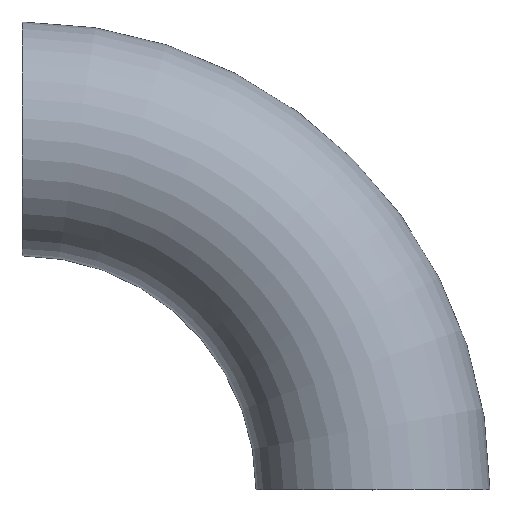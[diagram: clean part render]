
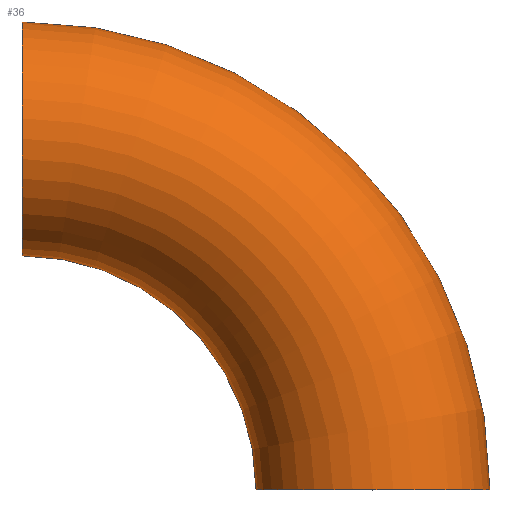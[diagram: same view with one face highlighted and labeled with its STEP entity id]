
A CAD part, top view. The second image highlights one B-rep face of the part: STEP entity #36.
In plain terms, the highlighted toroidal (fillet/blend) face has major radius 38.1 mm and minor radius 12.7 mm.
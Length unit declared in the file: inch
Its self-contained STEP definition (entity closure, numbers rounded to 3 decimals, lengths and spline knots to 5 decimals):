
#3 = DIRECTION ( 'NONE',  ( -1., 0., 0. ) ) ;
#5 = DIRECTION ( 'NONE',  ( 0., 0., -1. ) ) ;
#6 = VERTEX_POINT ( 'NONE', #55 ) ;
#16 = ORIENTED_EDGE ( 'NONE', *, *, #250, .T. ) ;
#21 = CARTESIAN_POINT ( 'NONE',  ( 0., 0., 0. ) ) ;
#24 = CARTESIAN_POINT ( 'NONE',  ( 0., 1., 0. ) ) ;
#26 = ORIENTED_EDGE ( 'NONE', *, *, #156, .F. ) ;
#30 = EDGE_LOOP ( 'NONE', ( #113, #26, #16, #64 ) ) ;
#32 = TOROIDAL_SURFACE ( 'NONE', #198, 1.5, 0.5 ) ;
#36 = ADVANCED_FACE ( 'NONE', ( #108 ), #32, .T. ) ;
#55 = CARTESIAN_POINT ( 'NONE',  ( 1., 0., 0. ) ) ;
#62 = VERTEX_POINT ( 'NONE', #224 ) ;
#64 = ORIENTED_EDGE ( 'NONE', *, *, #148, .T. ) ;
#73 = CARTESIAN_POINT ( 'NONE',  ( 0., 0., 0. ) ) ;
#89 = CARTESIAN_POINT ( 'NONE',  ( 0., 1.5, 0. ) ) ;
#98 = CIRCLE ( 'NONE', #189, 0.5 ) ;
#108 = FACE_OUTER_BOUND ( 'NONE', #30, .T. ) ;
#113 = ORIENTED_EDGE ( 'NONE', *, *, #243, .F. ) ;
#125 = CIRCLE ( 'NONE', #165, 1. ) ;
#131 = DIRECTION ( 'NONE',  ( 0., 0., 1. ) ) ;
#135 = DIRECTION ( 'NONE',  ( 0., 0., -1. ) ) ;
#137 = DIRECTION ( 'NONE',  ( 0., 1., 0. ) ) ;
#148 = EDGE_CURVE ( 'NONE', #6, #62, #158, .T. ) ;
#155 = CARTESIAN_POINT ( 'NONE',  ( 0., 0., 0. ) ) ;
#156 = EDGE_CURVE ( 'NONE', #164, #248, #98, .T. ) ;
#157 = DIRECTION ( 'NONE',  ( -1., 0., 0. ) ) ;
#158 = CIRCLE ( 'NONE', #193, 0.5 ) ;
#164 = VERTEX_POINT ( 'NONE', #24 ) ;
#165 = AXIS2_PLACEMENT_3D ( 'NONE', #155, #232, #173 ) ;
#169 = AXIS2_PLACEMENT_3D ( 'NONE', #21, #5, #3 ) ;
#173 = DIRECTION ( 'NONE',  ( -1., 0., 0. ) ) ;
#179 = DIRECTION ( 'NONE',  ( -1., 0., 0. ) ) ;
#189 = AXIS2_PLACEMENT_3D ( 'NONE', #89, #157, #131 ) ;
#193 = AXIS2_PLACEMENT_3D ( 'NONE', #217, #137, #223 ) ;
#198 = AXIS2_PLACEMENT_3D ( 'NONE', #73, #135, #179 ) ;
#217 = CARTESIAN_POINT ( 'NONE',  ( 1.5, 0., 0. ) ) ;
#223 = DIRECTION ( 'NONE',  ( 0., 0., 1. ) ) ;
#224 = CARTESIAN_POINT ( 'NONE',  ( 2., 0., 0. ) ) ;
#232 = DIRECTION ( 'NONE',  ( 0., 0., -1. ) ) ;
#235 = CIRCLE ( 'NONE', #169, 2. ) ;
#241 = CARTESIAN_POINT ( 'NONE',  ( 0., 2., 0. ) ) ;
#243 = EDGE_CURVE ( 'NONE', #248, #62, #235, .T. ) ;
#248 = VERTEX_POINT ( 'NONE', #241 ) ;
#250 = EDGE_CURVE ( 'NONE', #164, #6, #125, .T. ) ;
